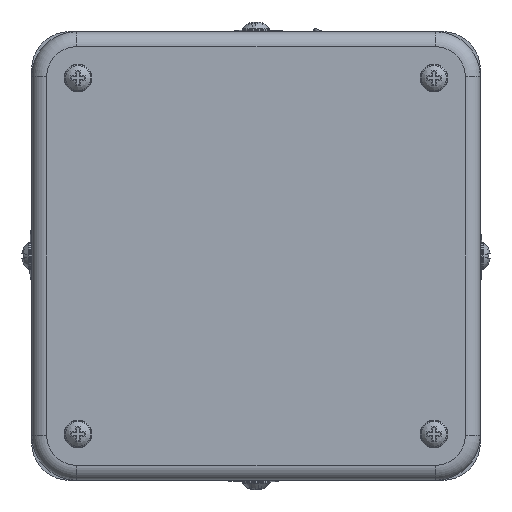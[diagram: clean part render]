
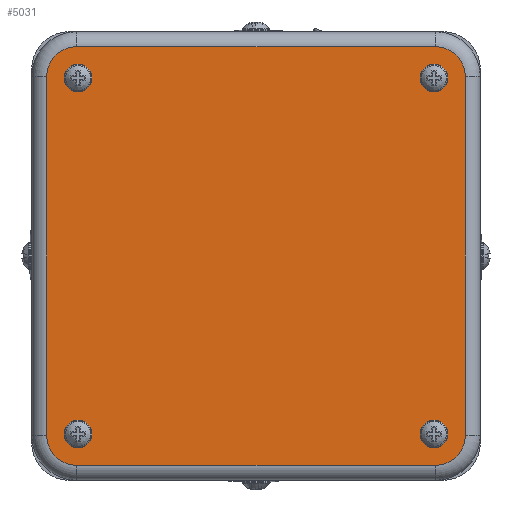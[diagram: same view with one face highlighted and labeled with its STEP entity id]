
A CAD part, left-side view. The second image highlights one B-rep face of the part: STEP entity #5031.
In plain terms, the highlighted planar face has unit normal (-1, 0, 0).
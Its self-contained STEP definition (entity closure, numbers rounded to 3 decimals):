
#246=FACE_BOUND('',#1020,.T.);
#247=FACE_BOUND('',#1021,.T.);
#248=FACE_BOUND('',#1022,.T.);
#249=FACE_BOUND('',#1023,.T.);
#421=PLANE('',#5506);
#689=FACE_OUTER_BOUND('',#1019,.T.);
#1019=EDGE_LOOP('',(#4350,#4351,#4352,#4353,#4354,#4355,#4356,#4357));
#1020=EDGE_LOOP('',(#4358));
#1021=EDGE_LOOP('',(#4359));
#1022=EDGE_LOOP('',(#4360));
#1023=EDGE_LOOP('',(#4361));
#1400=LINE('',#8833,#1778);
#1401=LINE('',#8837,#1779);
#1402=LINE('',#8841,#1780);
#1403=LINE('',#8844,#1781);
#1778=VECTOR('',#6685,72.);
#1779=VECTOR('',#6688,72.);
#1780=VECTOR('',#6691,72.);
#1781=VECTOR('',#6694,72.);
#1969=CIRCLE('',#5348,2.8);
#1980=CIRCLE('',#5377,2.8);
#2025=CIRCLE('',#5507,6.);
#2026=CIRCLE('',#5508,6.);
#2027=CIRCLE('',#5509,6.);
#2028=CIRCLE('',#5510,6.);
#2029=CIRCLE('',#5511,2.8);
#2030=CIRCLE('',#5512,2.8);
#2242=VERTEX_POINT('',#7602);
#2276=VERTEX_POINT('',#7807);
#2452=VERTEX_POINT('',#8829);
#2453=VERTEX_POINT('',#8830);
#2454=VERTEX_POINT('',#8832);
#2455=VERTEX_POINT('',#8834);
#2456=VERTEX_POINT('',#8836);
#2457=VERTEX_POINT('',#8838);
#2458=VERTEX_POINT('',#8840);
#2459=VERTEX_POINT('',#8842);
#2460=VERTEX_POINT('',#8845);
#2461=VERTEX_POINT('',#8847);
#2798=EDGE_CURVE('',#2242,#2242,#1969,.T.);
#2849=EDGE_CURVE('',#2276,#2276,#1980,.T.);
#3106=EDGE_CURVE('',#2452,#2453,#2025,.T.);
#3107=EDGE_CURVE('',#2454,#2452,#1400,.T.);
#3108=EDGE_CURVE('',#2455,#2454,#2026,.T.);
#3109=EDGE_CURVE('',#2456,#2455,#1401,.T.);
#3110=EDGE_CURVE('',#2457,#2456,#2027,.T.);
#3111=EDGE_CURVE('',#2458,#2457,#1402,.T.);
#3112=EDGE_CURVE('',#2459,#2458,#2028,.T.);
#3113=EDGE_CURVE('',#2453,#2459,#1403,.T.);
#3114=EDGE_CURVE('',#2460,#2460,#2029,.T.);
#3115=EDGE_CURVE('',#2461,#2461,#2030,.T.);
#4350=ORIENTED_EDGE('',*,*,#3106,.F.);
#4351=ORIENTED_EDGE('',*,*,#3107,.F.);
#4352=ORIENTED_EDGE('',*,*,#3108,.F.);
#4353=ORIENTED_EDGE('',*,*,#3109,.F.);
#4354=ORIENTED_EDGE('',*,*,#3110,.F.);
#4355=ORIENTED_EDGE('',*,*,#3111,.F.);
#4356=ORIENTED_EDGE('',*,*,#3112,.F.);
#4357=ORIENTED_EDGE('',*,*,#3113,.F.);
#4358=ORIENTED_EDGE('',*,*,#3114,.T.);
#4359=ORIENTED_EDGE('',*,*,#2798,.T.);
#4360=ORIENTED_EDGE('',*,*,#3115,.T.);
#4361=ORIENTED_EDGE('',*,*,#2849,.T.);
#5031=ADVANCED_FACE('',(#689,#246,#247,#248,#249),#421,.F.);
#5348=AXIS2_PLACEMENT_3D('',#7603,#6197,#6198);
#5377=AXIS2_PLACEMENT_3D('',#7808,#6281,#6282);
#5506=AXIS2_PLACEMENT_3D('',#8828,#6681,#6682);
#5507=AXIS2_PLACEMENT_3D('',#8831,#6683,#6684);
#5508=AXIS2_PLACEMENT_3D('',#8835,#6686,#6687);
#5509=AXIS2_PLACEMENT_3D('',#8839,#6689,#6690);
#5510=AXIS2_PLACEMENT_3D('',#8843,#6692,#6693);
#5511=AXIS2_PLACEMENT_3D('',#8846,#6695,#6696);
#5512=AXIS2_PLACEMENT_3D('',#8848,#6697,#6698);
#6197=DIRECTION('center_axis',(1.,0.,0.));
#6198=DIRECTION('ref_axis',(0.,-1.,0.));
#6281=DIRECTION('center_axis',(1.,0.,0.));
#6282=DIRECTION('ref_axis',(0.,-1.,0.));
#6681=DIRECTION('center_axis',(1.,0.,0.));
#6682=DIRECTION('ref_axis',(0.,1.,0.));
#6683=DIRECTION('center_axis',(1.,0.,0.));
#6684=DIRECTION('ref_axis',(0.,0.707,-0.707));
#6685=DIRECTION('',(0.,1.,0.));
#6686=DIRECTION('center_axis',(1.,0.,0.));
#6687=DIRECTION('ref_axis',(0.,-0.707,-0.707));
#6688=DIRECTION('',(0.,0.,-1.));
#6689=DIRECTION('center_axis',(1.,0.,0.));
#6690=DIRECTION('ref_axis',(0.,-0.707,0.707));
#6691=DIRECTION('',(0.,-1.,0.));
#6692=DIRECTION('center_axis',(1.,0.,0.));
#6693=DIRECTION('ref_axis',(0.,0.707,0.707));
#6694=DIRECTION('',(0.,0.,1.));
#6695=DIRECTION('center_axis',(1.,0.,0.));
#6696=DIRECTION('ref_axis',(0.,-1.,0.));
#6697=DIRECTION('center_axis',(1.,0.,0.));
#6698=DIRECTION('ref_axis',(0.,-1.,0.));
#7602=CARTESIAN_POINT('',(-123.672,-31.097,-23.376));
#7603=CARTESIAN_POINT('Origin',(-123.672,-33.897,-23.376));
#7807=CARTESIAN_POINT('',(-123.672,40.32,-23.376));
#7808=CARTESIAN_POINT('Origin',(-123.672,37.52,-23.376));
#8828=CARTESIAN_POINT('Origin',(-123.672,8.839,5.306));
#8829=CARTESIAN_POINT('',(-123.672,37.811,-29.667));
#8830=CARTESIAN_POINT('',(-123.672,43.811,-23.667));
#8831=CARTESIAN_POINT('Origin',(-123.672,37.811,-23.667));
#8832=CARTESIAN_POINT('',(-123.672,-34.189,-29.667));
#8833=CARTESIAN_POINT('',(-123.672,-34.189,-29.667));
#8834=CARTESIAN_POINT('',(-123.672,-40.189,-23.667));
#8835=CARTESIAN_POINT('Origin',(-123.672,-34.189,-23.667));
#8836=CARTESIAN_POINT('',(-123.672,-40.189,48.333));
#8837=CARTESIAN_POINT('',(-123.672,-40.189,48.333));
#8838=CARTESIAN_POINT('',(-123.672,-34.189,54.333));
#8839=CARTESIAN_POINT('Origin',(-123.672,-34.189,48.333));
#8840=CARTESIAN_POINT('',(-123.672,37.811,54.333));
#8841=CARTESIAN_POINT('',(-123.672,37.811,54.333));
#8842=CARTESIAN_POINT('',(-123.672,43.811,48.333));
#8843=CARTESIAN_POINT('Origin',(-123.672,37.811,48.333));
#8844=CARTESIAN_POINT('',(-123.672,43.811,-23.667));
#8845=CARTESIAN_POINT('',(-123.672,-31.097,48.042));
#8846=CARTESIAN_POINT('Origin',(-123.672,-33.897,48.042));
#8847=CARTESIAN_POINT('',(-123.672,40.32,48.042));
#8848=CARTESIAN_POINT('Origin',(-123.672,37.52,48.042));
